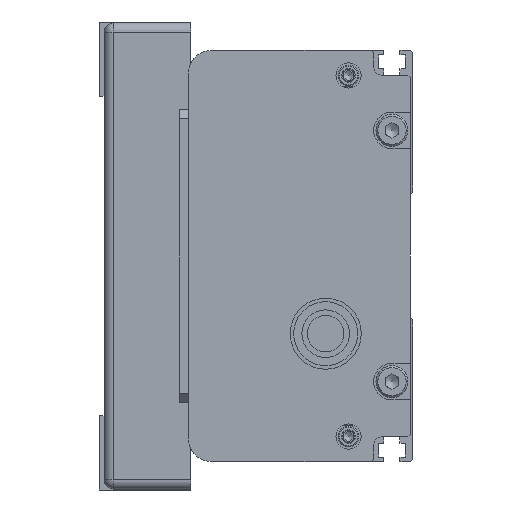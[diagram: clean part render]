
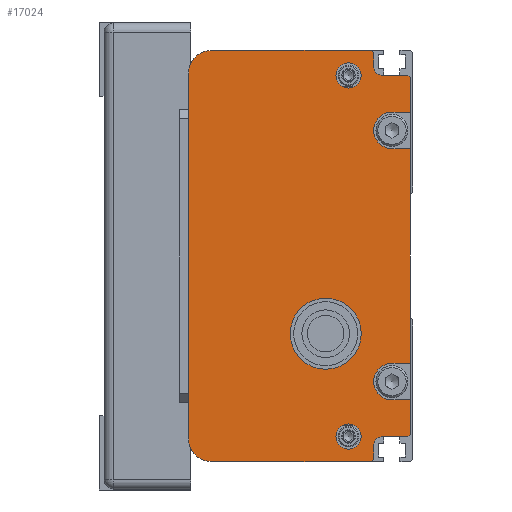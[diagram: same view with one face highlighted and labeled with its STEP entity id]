
A CAD part, left-side view. The second image highlights one B-rep face of the part: STEP entity #17024.
In plain terms, the highlighted planar face has unit normal (-1, 0, 0) as drawn and (0, 0, -1) by its records, which use the part's own axes.
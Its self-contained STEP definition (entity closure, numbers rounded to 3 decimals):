
#1084=FACE_BOUND('',#2504,.T.);
#1085=FACE_BOUND('',#2505,.T.);
#1086=FACE_BOUND('',#2506,.T.);
#1426=FACE_OUTER_BOUND('',#2503,.T.);
#2503=EDGE_LOOP('',(#11835,#11836,#11837,#11838,#11839,#11840,#11841,#11842,
#11843,#11844,#11845,#11846,#11847,#11848,#11849,#11850,#11851,#11852,#11853,
#11854,#11855,#11856,#11857,#11858));
#2504=EDGE_LOOP('',(#11859));
#2505=EDGE_LOOP('',(#11860));
#2506=EDGE_LOOP('',(#11861));
#3801=LINE('',#24681,#5299);
#3827=LINE('',#24748,#5325);
#3829=LINE('',#24753,#5327);
#3830=LINE('',#24755,#5328);
#3831=LINE('',#24758,#5329);
#3832=LINE('',#24760,#5330);
#3833=LINE('',#24762,#5331);
#3834=LINE('',#24766,#5332);
#3835=LINE('',#24768,#5333);
#3836=LINE('',#24770,#5334);
#3837=LINE('',#24774,#5335);
#3838=LINE('',#24776,#5336);
#3839=LINE('',#24778,#5337);
#3840=LINE('',#24780,#5338);
#3841=LINE('',#24784,#5339);
#3842=LINE('',#24786,#5340);
#3843=LINE('',#24787,#5341);
#3844=LINE('',#24788,#5342);
#5299=VECTOR('',#20054,80.);
#5325=VECTOR('',#20106,0.707);
#5327=VECTOR('',#20110,0.707);
#5328=VECTOR('',#20111,3.);
#5329=VECTOR('',#20114,5.5);
#5330=VECTOR('',#20115,7.5);
#5331=VECTOR('',#20116,4.);
#5332=VECTOR('',#20119,4.);
#5333=VECTOR('',#20120,47.);
#5334=VECTOR('',#20121,4.);
#5335=VECTOR('',#20124,4.);
#5336=VECTOR('',#20125,7.5);
#5337=VECTOR('',#20126,0.707);
#5338=VECTOR('',#20127,5.5);
#5339=VECTOR('',#20130,3.);
#5340=VECTOR('',#20131,0.707);
#5341=VECTOR('',#20132,35.);
#5342=VECTOR('',#20133,35.);
#6692=CIRCLE('',#18188,5.);
#6695=CIRCLE('',#18195,5.);
#6697=CIRCLE('',#18201,2.);
#6698=CIRCLE('',#18202,4.);
#6699=CIRCLE('',#18203,4.);
#6700=CIRCLE('',#18204,2.);
#6701=CIRCLE('',#18205,7.769);
#6702=CIRCLE('',#18206,2.75);
#6703=CIRCLE('',#18207,2.75);
#7303=VERTEX_POINT('',#24678);
#7304=VERTEX_POINT('',#24680);
#7305=VERTEX_POINT('',#24684);
#7308=VERTEX_POINT('',#24695);
#7331=VERTEX_POINT('',#24745);
#7332=VERTEX_POINT('',#24747);
#7333=VERTEX_POINT('',#24751);
#7334=VERTEX_POINT('',#24752);
#7335=VERTEX_POINT('',#24754);
#7336=VERTEX_POINT('',#24756);
#7337=VERTEX_POINT('',#24759);
#7338=VERTEX_POINT('',#24761);
#7339=VERTEX_POINT('',#24763);
#7340=VERTEX_POINT('',#24765);
#7341=VERTEX_POINT('',#24767);
#7342=VERTEX_POINT('',#24769);
#7343=VERTEX_POINT('',#24771);
#7344=VERTEX_POINT('',#24773);
#7345=VERTEX_POINT('',#24775);
#7346=VERTEX_POINT('',#24777);
#7347=VERTEX_POINT('',#24779);
#7348=VERTEX_POINT('',#24781);
#7349=VERTEX_POINT('',#24783);
#7350=VERTEX_POINT('',#24785);
#7351=VERTEX_POINT('',#24789);
#7352=VERTEX_POINT('',#24791);
#7353=VERTEX_POINT('',#24793);
#9093=EDGE_CURVE('',#7303,#7304,#3801,.T.);
#9095=EDGE_CURVE('',#7304,#7305,#6692,.T.);
#9100=EDGE_CURVE('',#7308,#7303,#6695,.T.);
#9124=EDGE_CURVE('',#7331,#7332,#3827,.T.);
#9126=EDGE_CURVE('',#7333,#7334,#3829,.T.);
#9127=EDGE_CURVE('',#7333,#7335,#3830,.T.);
#9128=EDGE_CURVE('',#7335,#7336,#6697,.T.);
#9129=EDGE_CURVE('',#7336,#7332,#3831,.T.);
#9130=EDGE_CURVE('',#7337,#7331,#3832,.T.);
#9131=EDGE_CURVE('',#7337,#7338,#3833,.T.);
#9132=EDGE_CURVE('',#7338,#7339,#6698,.T.);
#9133=EDGE_CURVE('',#7339,#7340,#3834,.T.);
#9134=EDGE_CURVE('',#7341,#7340,#3835,.T.);
#9135=EDGE_CURVE('',#7341,#7342,#3836,.T.);
#9136=EDGE_CURVE('',#7342,#7343,#6699,.T.);
#9137=EDGE_CURVE('',#7343,#7344,#3837,.T.);
#9138=EDGE_CURVE('',#7345,#7344,#3838,.T.);
#9139=EDGE_CURVE('',#7346,#7345,#3839,.T.);
#9140=EDGE_CURVE('',#7346,#7347,#3840,.T.);
#9141=EDGE_CURVE('',#7347,#7348,#6700,.T.);
#9142=EDGE_CURVE('',#7348,#7349,#3841,.T.);
#9143=EDGE_CURVE('',#7350,#7349,#3842,.T.);
#9144=EDGE_CURVE('',#7305,#7350,#3843,.T.);
#9145=EDGE_CURVE('',#7334,#7308,#3844,.T.);
#9146=EDGE_CURVE('',#7351,#7351,#6701,.T.);
#9147=EDGE_CURVE('',#7352,#7352,#6702,.T.);
#9148=EDGE_CURVE('',#7353,#7353,#6703,.T.);
#11835=ORIENTED_EDGE('',*,*,#9126,.F.);
#11836=ORIENTED_EDGE('',*,*,#9127,.T.);
#11837=ORIENTED_EDGE('',*,*,#9128,.T.);
#11838=ORIENTED_EDGE('',*,*,#9129,.T.);
#11839=ORIENTED_EDGE('',*,*,#9124,.F.);
#11840=ORIENTED_EDGE('',*,*,#9130,.F.);
#11841=ORIENTED_EDGE('',*,*,#9131,.T.);
#11842=ORIENTED_EDGE('',*,*,#9132,.T.);
#11843=ORIENTED_EDGE('',*,*,#9133,.T.);
#11844=ORIENTED_EDGE('',*,*,#9134,.F.);
#11845=ORIENTED_EDGE('',*,*,#9135,.T.);
#11846=ORIENTED_EDGE('',*,*,#9136,.T.);
#11847=ORIENTED_EDGE('',*,*,#9137,.T.);
#11848=ORIENTED_EDGE('',*,*,#9138,.F.);
#11849=ORIENTED_EDGE('',*,*,#9139,.F.);
#11850=ORIENTED_EDGE('',*,*,#9140,.T.);
#11851=ORIENTED_EDGE('',*,*,#9141,.T.);
#11852=ORIENTED_EDGE('',*,*,#9142,.T.);
#11853=ORIENTED_EDGE('',*,*,#9143,.F.);
#11854=ORIENTED_EDGE('',*,*,#9144,.F.);
#11855=ORIENTED_EDGE('',*,*,#9095,.F.);
#11856=ORIENTED_EDGE('',*,*,#9093,.F.);
#11857=ORIENTED_EDGE('',*,*,#9100,.F.);
#11858=ORIENTED_EDGE('',*,*,#9145,.F.);
#11859=ORIENTED_EDGE('',*,*,#9146,.T.);
#11860=ORIENTED_EDGE('',*,*,#9147,.T.);
#11861=ORIENTED_EDGE('',*,*,#9148,.T.);
#16410=PLANE('',#18200);
#17024=ADVANCED_FACE('',(#1426,#1084,#1085,#1086),#16410,.F.);
#18188=AXIS2_PLACEMENT_3D('',#24685,#20058,#20059);
#18195=AXIS2_PLACEMENT_3D('',#24697,#20074,#20075);
#18200=AXIS2_PLACEMENT_3D('',#24750,#20108,#20109);
#18201=AXIS2_PLACEMENT_3D('',#24757,#20112,#20113);
#18202=AXIS2_PLACEMENT_3D('',#24764,#20117,#20118);
#18203=AXIS2_PLACEMENT_3D('',#24772,#20122,#20123);
#18204=AXIS2_PLACEMENT_3D('',#24782,#20128,#20129);
#18205=AXIS2_PLACEMENT_3D('',#24790,#20134,#20135);
#18206=AXIS2_PLACEMENT_3D('',#24792,#20136,#20137);
#18207=AXIS2_PLACEMENT_3D('',#24794,#20138,#20139);
#20054=DIRECTION('',(-1.,0.,0.));
#20058=DIRECTION('center_axis',(0.,0.,1.));
#20059=DIRECTION('ref_axis',(0.,1.,0.));
#20074=DIRECTION('center_axis',(0.,0.,1.));
#20075=DIRECTION('ref_axis',(1.,0.,0.));
#20106=DIRECTION('',(0.707,0.707,0.));
#20108=DIRECTION('center_axis',(0.,0.,1.));
#20109=DIRECTION('ref_axis',(1.,0.,0.));
#20110=DIRECTION('',(0.707,0.707,0.));
#20111=DIRECTION('',(-1.,0.,0.));
#20112=DIRECTION('center_axis',(0.,0.,1.));
#20113=DIRECTION('ref_axis',(0.,1.,0.));
#20114=DIRECTION('',(0.,-1.,0.));
#20115=DIRECTION('',(1.,0.,0.));
#20116=DIRECTION('',(0.,1.,0.));
#20117=DIRECTION('center_axis',(0.,0.,1.));
#20118=DIRECTION('ref_axis',(-1.,0.,0.));
#20119=DIRECTION('',(0.,-1.,0.));
#20120=DIRECTION('',(1.,0.,0.));
#20121=DIRECTION('',(0.,1.,0.));
#20122=DIRECTION('center_axis',(0.,0.,1.));
#20123=DIRECTION('ref_axis',(-1.,0.,0.));
#20124=DIRECTION('',(0.,-1.,0.));
#20125=DIRECTION('',(1.,0.,0.));
#20126=DIRECTION('',(0.707,-0.707,0.));
#20127=DIRECTION('',(0.,1.,0.));
#20128=DIRECTION('center_axis',(0.,0.,1.));
#20129=DIRECTION('ref_axis',(-1.,0.,0.));
#20130=DIRECTION('',(-1.,0.,0.));
#20131=DIRECTION('',(0.707,-0.707,0.));
#20132=DIRECTION('',(0.,-1.,0.));
#20133=DIRECTION('',(0.,1.,0.));
#20134=DIRECTION('center_axis',(0.,0.,1.));
#20135=DIRECTION('ref_axis',(0.766,-0.643,0.));
#20136=DIRECTION('center_axis',(0.,0.,1.));
#20137=DIRECTION('ref_axis',(-1.,0.,0.));
#20138=DIRECTION('center_axis',(0.,0.,1.));
#20139=DIRECTION('ref_axis',(-1.,0.,0.));
#24678=CARTESIAN_POINT('',(37.988,51.846,-797.249));
#24680=CARTESIAN_POINT('',(-42.012,51.846,-797.249));
#24681=CARTESIAN_POINT('',(37.988,51.846,-797.249));
#24684=CARTESIAN_POINT('',(-47.012,46.846,-797.249));
#24685=CARTESIAN_POINT('Origin',(-42.012,46.846,-797.249));
#24695=CARTESIAN_POINT('',(42.988,46.846,-797.249));
#24697=CARTESIAN_POINT('Origin',(37.988,46.846,-797.249));
#24745=CARTESIAN_POINT('',(36.988,3.346,-797.249));
#24747=CARTESIAN_POINT('',(37.488,3.846,-797.249));
#24748=CARTESIAN_POINT('',(36.988,3.346,-797.249));
#24750=CARTESIAN_POINT('Origin',(-2.012,27.249,-797.249));
#24751=CARTESIAN_POINT('',(42.488,11.346,-797.249));
#24752=CARTESIAN_POINT('',(42.988,11.846,-797.249));
#24753=CARTESIAN_POINT('',(42.488,11.346,-797.249));
#24754=CARTESIAN_POINT('',(39.488,11.346,-797.249));
#24755=CARTESIAN_POINT('',(42.488,11.346,-797.249));
#24756=CARTESIAN_POINT('',(37.488,9.346,-797.249));
#24757=CARTESIAN_POINT('Origin',(39.488,9.346,-797.249));
#24758=CARTESIAN_POINT('',(37.488,9.346,-797.249));
#24759=CARTESIAN_POINT('',(29.488,3.346,-797.249));
#24760=CARTESIAN_POINT('',(29.488,3.346,-797.249));
#24761=CARTESIAN_POINT('',(29.488,7.346,-797.249));
#24762=CARTESIAN_POINT('',(29.488,3.346,-797.249));
#24763=CARTESIAN_POINT('',(21.488,7.346,-797.249));
#24764=CARTESIAN_POINT('Origin',(25.488,7.346,-797.249));
#24765=CARTESIAN_POINT('',(21.488,3.346,-797.249));
#24766=CARTESIAN_POINT('',(21.488,7.346,-797.249));
#24767=CARTESIAN_POINT('',(-25.512,3.346,-797.249));
#24768=CARTESIAN_POINT('',(-25.512,3.346,-797.249));
#24769=CARTESIAN_POINT('',(-25.512,7.346,-797.249));
#24770=CARTESIAN_POINT('',(-25.512,3.346,-797.249));
#24771=CARTESIAN_POINT('',(-33.512,7.346,-797.249));
#24772=CARTESIAN_POINT('Origin',(-29.512,7.346,-797.249));
#24773=CARTESIAN_POINT('',(-33.512,3.346,-797.249));
#24774=CARTESIAN_POINT('',(-33.512,7.346,-797.249));
#24775=CARTESIAN_POINT('',(-41.012,3.346,-797.249));
#24776=CARTESIAN_POINT('',(-41.012,3.346,-797.249));
#24777=CARTESIAN_POINT('',(-41.512,3.846,-797.249));
#24778=CARTESIAN_POINT('',(-41.512,3.846,-797.249));
#24779=CARTESIAN_POINT('',(-41.512,9.346,-797.249));
#24780=CARTESIAN_POINT('',(-41.512,3.846,-797.249));
#24781=CARTESIAN_POINT('',(-43.512,11.346,-797.249));
#24782=CARTESIAN_POINT('Origin',(-43.512,9.346,-797.249));
#24783=CARTESIAN_POINT('',(-46.512,11.346,-797.249));
#24784=CARTESIAN_POINT('',(-43.512,11.346,-797.249));
#24785=CARTESIAN_POINT('',(-47.012,11.846,-797.249));
#24786=CARTESIAN_POINT('',(-47.012,11.846,-797.249));
#24787=CARTESIAN_POINT('',(-47.012,46.846,-797.249));
#24788=CARTESIAN_POINT('',(42.988,11.846,-797.249));
#24789=CARTESIAN_POINT('',(20.939,16.853,-797.249));
#24790=CARTESIAN_POINT('Origin',(14.988,21.846,-797.249));
#24791=CARTESIAN_POINT('',(34.738,16.846,-797.249));
#24792=CARTESIAN_POINT('Origin',(37.488,16.846,-797.249));
#24793=CARTESIAN_POINT('',(-44.262,16.846,-797.249));
#24794=CARTESIAN_POINT('Origin',(-41.512,16.846,-797.249));
